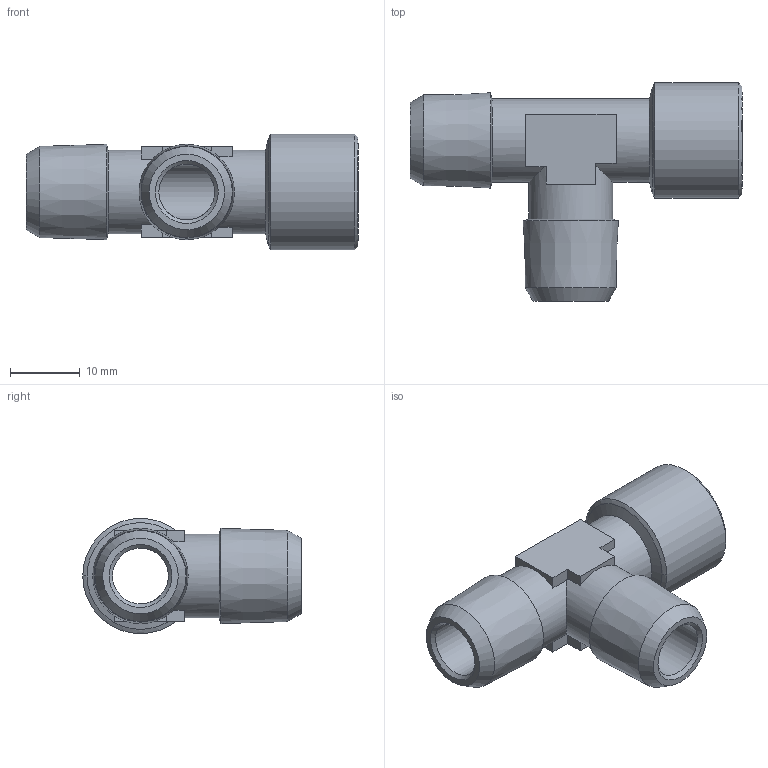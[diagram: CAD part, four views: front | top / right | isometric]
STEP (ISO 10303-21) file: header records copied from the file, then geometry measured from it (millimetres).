
FILE_DESCRIPTION (( 'STEP AP214' ), '1' );
FILE_NAME ('0403000010300A.STEP', '2013-08-08T05:50:56', ( 'ST01' ), ( '' ), 'SwSTEP 2.0', 'SolidWorks 2012', '' );
FILE_SCHEMA (( 'AUTOMOTIVE_DESIGN' ));
Length unit declared in the file: millimetre
Products named in the file (1): 0403000010300A
Bounding box: 47.5 x 31.25 x 16.5 mm (x, y, z)
Volume: 5385.6 mm3; surface area: 4826 mm2
Topology: 1 solids, 1 shells, 41 faces, 111 edges, 71 vertices
Faces by surface type: plane 21, cone 12, cylinder 6, bspline 2
Full cylindrical faces by diameter (mm): 8 x2, 11.445 x1, 12 x2, 16.5 x1
Entity records: 1163 total; most frequent: CARTESIAN_POINT 235, DIRECTION 188, ORIENTED_EDGE 162, EDGE_CURVE 81, AXIS2_PLACEMENT_3D 73, EDGE_LOOP 64, VERTEX_POINT 61, FACE_OUTER_BOUND 47
